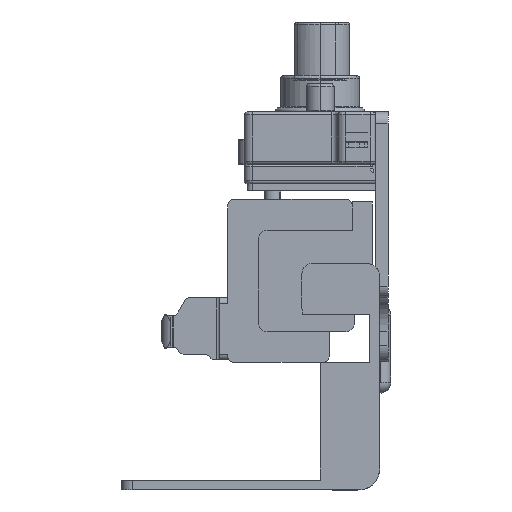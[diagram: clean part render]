
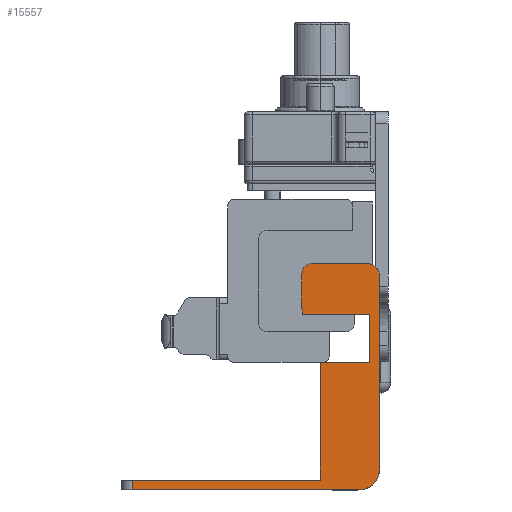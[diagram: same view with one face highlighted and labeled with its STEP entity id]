
A CAD part, left-side view. The second image highlights one B-rep face of the part: STEP entity #15557.
In plain terms, the highlighted planar face has unit normal (-1, 0, 0).
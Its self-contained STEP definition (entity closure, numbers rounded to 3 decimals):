
#154 = CARTESIAN_POINT ( 'NONE',  ( -180., 1.77, 63. ) ) ;
#296 = DIRECTION ( 'NONE',  ( -1., 0., 0. ) ) ;
#380 = DIRECTION ( 'NONE',  ( 1., 0., 0. ) ) ;
#957 = CARTESIAN_POINT ( 'NONE',  ( -180., 0., 44.07 ) ) ;
#1098 = CARTESIAN_POINT ( 'NONE',  ( -180., 12.313, 78.923 ) ) ;
#1138 = EDGE_CURVE ( 'NONE', #15759, #11722, #6414, .T. ) ;
#1156 = LINE ( 'NONE', #16083, #8948 ) ;
#1170 = DIRECTION ( 'NONE',  ( -1., 0., 0. ) ) ;
#1274 = VERTEX_POINT ( 'NONE', #18751 ) ;
#1307 = DIRECTION ( 'NONE',  ( 0., 0., 1. ) ) ;
#1391 = VECTOR ( 'NONE', #13691, 1000. ) ;
#1913 = LINE ( 'NONE', #14173, #5365 ) ;
#2069 = CARTESIAN_POINT ( 'NONE',  ( -180., 3.77, 40.3 ) ) ;
#2289 = CARTESIAN_POINT ( 'NONE',  ( -180., 2.27, 80.6 ) ) ;
#2345 = DIRECTION ( 'NONE',  ( -1., 0., 0. ) ) ;
#2421 = EDGE_CURVE ( 'NONE', #18650, #13160, #7973, .T. ) ;
#2438 = CARTESIAN_POINT ( 'NONE',  ( -180., 11.92, 78.613 ) ) ;
#2572 = CARTESIAN_POINT ( 'NONE',  ( -180., 0., 78.33 ) ) ;
#2594 = DIRECTION ( 'NONE',  ( 0., 0., 1. ) ) ;
#2933 = EDGE_CURVE ( 'NONE', #11722, #1274, #3625, .T. ) ;
#3294 = CARTESIAN_POINT ( 'NONE',  ( -180., 23., 60.45 ) ) ;
#3356 = EDGE_CURVE ( 'NONE', #16747, #8858, #15389, .T. ) ;
#3364 = VERTEX_POINT ( 'NONE', #7607 ) ;
#3625 = CIRCLE ( 'NONE', #3660, 53. ) ;
#3660 = AXIS2_PLACEMENT_3D ( 'NONE', #12883, #4241, #14337 ) ;
#3815 = CARTESIAN_POINT ( 'NONE',  ( -180., 10.57, 63. ) ) ;
#3906 = DIRECTION ( 'NONE',  ( 0., 0., 1. ) ) ;
#3908 = LINE ( 'NONE', #9514, #1391 ) ;
#3988 = VERTEX_POINT ( 'NONE', #154 ) ;
#4241 = DIRECTION ( 'NONE',  ( -1., 0., 0. ) ) ;
#5026 = DIRECTION ( 'NONE',  ( 0., 1., 0. ) ) ;
#5365 = VECTOR ( 'NONE', #2594, 1000. ) ;
#5529 = ORIENTED_EDGE ( 'NONE', *, *, #1138, .T. ) ;
#5594 = DIRECTION ( 'NONE',  ( 0., -1., 0. ) ) ;
#5617 = EDGE_LOOP ( 'NONE', ( #13191, #16588, #7901, #16483, #16827, #6868, #5529, #17824, #14409, #13672, #11902, #14419, #17128, #18642 ) ) ;
#5642 = CARTESIAN_POINT ( 'NONE',  ( -180., 10.57, 42.07 ) ) ;
#6176 = CARTESIAN_POINT ( 'NONE',  ( -180., 1.77, 60.45 ) ) ;
#6390 = CARTESIAN_POINT ( 'NONE',  ( -180., 23., 42.07 ) ) ;
#6414 = CIRCLE ( 'NONE', #7121, 1.5 ) ;
#6802 = LINE ( 'NONE', #6390, #14020 ) ;
#6868 = ORIENTED_EDGE ( 'NONE', *, *, #9453, .T. ) ;
#6992 = EDGE_CURVE ( 'NONE', #11936, #3988, #15925, .T. ) ;
#7121 = AXIS2_PLACEMENT_3D ( 'NONE', #1098, #1170, #1307 ) ;
#7356 = CARTESIAN_POINT ( 'NONE',  ( -180., 44., 42.07 ) ) ;
#7607 = CARTESIAN_POINT ( 'NONE',  ( -180., 44., 40.3 ) ) ;
#7622 = VERTEX_POINT ( 'NONE', #7356 ) ;
#7762 = CARTESIAN_POINT ( 'NONE',  ( -180., 23., 80.6 ) ) ;
#7861 = LINE ( 'NONE', #13044, #14627 ) ;
#7873 = DIRECTION ( 'NONE',  ( 0., 1., 0. ) ) ;
#7901 = ORIENTED_EDGE ( 'NONE', *, *, #15283, .T. ) ;
#7973 = LINE ( 'NONE', #11167, #11346 ) ;
#8201 = EDGE_CURVE ( 'NONE', #18650, #3988, #18818, .T. ) ;
#8414 = CIRCLE ( 'NONE', #17332, 2. ) ;
#8515 = LINE ( 'NONE', #7762, #16167 ) ;
#8858 = VERTEX_POINT ( 'NONE', #957 ) ;
#8948 = VECTOR ( 'NONE', #5594, 1000. ) ;
#9014 = CARTESIAN_POINT ( 'NONE',  ( -180., 1.77, 71.6 ) ) ;
#9081 = CARTESIAN_POINT ( 'NONE',  ( -180., 3.77, 44.07 ) ) ;
#9154 = PLANE ( 'NONE',  #16074 ) ;
#9294 = EDGE_CURVE ( 'NONE', #13160, #7622, #6802, .T. ) ;
#9423 = VERTEX_POINT ( 'NONE', #2289 ) ;
#9453 = EDGE_CURVE ( 'NONE', #15218, #15759, #8414, .T. ) ;
#9514 = CARTESIAN_POINT ( 'NONE',  ( -180., 44., 42.07 ) ) ;
#9731 = DIRECTION ( 'NONE',  ( 0., 0., -1. ) ) ;
#9886 = CARTESIAN_POINT ( 'NONE',  ( -180., 13.809, 79.02 ) ) ;
#10307 = DIRECTION ( 'NONE',  ( 0., -1., 0. ) ) ;
#10499 = DIRECTION ( 'NONE',  ( 0., 0., 1. ) ) ;
#10587 = DIRECTION ( 'NONE',  ( 0., 0., 1. ) ) ;
#10588 = CIRCLE ( 'NONE', #17259, 2.27 ) ;
#10672 = VECTOR ( 'NONE', #10307, 1000. ) ;
#11053 = CARTESIAN_POINT ( 'NONE',  ( -180., 2.27, 78.33 ) ) ;
#11104 = CARTESIAN_POINT ( 'NONE',  ( -180., 12.15, 80.6 ) ) ;
#11167 = CARTESIAN_POINT ( 'NONE',  ( -180., 10.57, 44.07 ) ) ;
#11346 = VECTOR ( 'NONE', #9731, 1000. ) ;
#11722 = VERTEX_POINT ( 'NONE', #9886 ) ;
#11902 = ORIENTED_EDGE ( 'NONE', *, *, #8201, .F. ) ;
#11936 = VERTEX_POINT ( 'NONE', #9014 ) ;
#12064 = VECTOR ( 'NONE', #16299, 1000. ) ;
#12480 = DIRECTION ( 'NONE',  ( 0., 0., 1. ) ) ;
#12570 = DIRECTION ( 'NONE',  ( -1., 0., 0. ) ) ;
#12709 = EDGE_CURVE ( 'NONE', #3364, #16747, #1156, .T. ) ;
#12801 = FACE_OUTER_BOUND ( 'NONE', #5617, .T. ) ;
#12883 = CARTESIAN_POINT ( 'NONE',  ( -180., -39.08, 75.591 ) ) ;
#12982 = EDGE_CURVE ( 'NONE', #3364, #7622, #3908, .T. ) ;
#13044 = CARTESIAN_POINT ( 'NONE',  ( -180., 23., 71.6 ) ) ;
#13160 = VERTEX_POINT ( 'NONE', #5642 ) ;
#13191 = ORIENTED_EDGE ( 'NONE', *, *, #12709, .T. ) ;
#13672 = ORIENTED_EDGE ( 'NONE', *, *, #6992, .T. ) ;
#13691 = DIRECTION ( 'NONE',  ( 0., 0., 1. ) ) ;
#14020 = VECTOR ( 'NONE', #7873, 1000. ) ;
#14173 = CARTESIAN_POINT ( 'NONE',  ( -180., 0., 60.45 ) ) ;
#14337 = DIRECTION ( 'NONE',  ( 0., 0., 1. ) ) ;
#14409 = ORIENTED_EDGE ( 'NONE', *, *, #15408, .F. ) ;
#14419 = ORIENTED_EDGE ( 'NONE', *, *, #2421, .T. ) ;
#14579 = CARTESIAN_POINT ( 'NONE',  ( -180., 10.57, 63. ) ) ;
#14627 = VECTOR ( 'NONE', #17373, 1000. ) ;
#15218 = VERTEX_POINT ( 'NONE', #11104 ) ;
#15283 = EDGE_CURVE ( 'NONE', #8858, #15798, #1913, .T. ) ;
#15389 = CIRCLE ( 'NONE', #16890, 3.77 ) ;
#15408 = EDGE_CURVE ( 'NONE', #11936, #1274, #7861, .T. ) ;
#15557 = ADVANCED_FACE ( 'NONE', ( #12801 ), #9154, .F. ) ;
#15759 = VERTEX_POINT ( 'NONE', #18475 ) ;
#15798 = VERTEX_POINT ( 'NONE', #2572 ) ;
#15925 = LINE ( 'NONE', #6176, #12064 ) ;
#16074 = AXIS2_PLACEMENT_3D ( 'NONE', #3294, #380, #10587 ) ;
#16083 = CARTESIAN_POINT ( 'NONE',  ( -180., 23., 40.3 ) ) ;
#16167 = VECTOR ( 'NONE', #5026, 1000. ) ;
#16299 = DIRECTION ( 'NONE',  ( 0., 0., -1. ) ) ;
#16483 = ORIENTED_EDGE ( 'NONE', *, *, #18200, .T. ) ;
#16588 = ORIENTED_EDGE ( 'NONE', *, *, #3356, .T. ) ;
#16694 = EDGE_CURVE ( 'NONE', #9423, #15218, #8515, .T. ) ;
#16747 = VERTEX_POINT ( 'NONE', #2069 ) ;
#16827 = ORIENTED_EDGE ( 'NONE', *, *, #16694, .T. ) ;
#16890 = AXIS2_PLACEMENT_3D ( 'NONE', #9081, #296, #10499 ) ;
#17128 = ORIENTED_EDGE ( 'NONE', *, *, #9294, .T. ) ;
#17259 = AXIS2_PLACEMENT_3D ( 'NONE', #11053, #2345, #12480 ) ;
#17332 = AXIS2_PLACEMENT_3D ( 'NONE', #2438, #12570, #3906 ) ;
#17373 = DIRECTION ( 'NONE',  ( 0., 1., 0. ) ) ;
#17824 = ORIENTED_EDGE ( 'NONE', *, *, #2933, .T. ) ;
#18200 = EDGE_CURVE ( 'NONE', #15798, #9423, #10588, .T. ) ;
#18475 = CARTESIAN_POINT ( 'NONE',  ( -180., 13.49, 79.852 ) ) ;
#18642 = ORIENTED_EDGE ( 'NONE', *, *, #12982, .F. ) ;
#18650 = VERTEX_POINT ( 'NONE', #3815 ) ;
#18751 = CARTESIAN_POINT ( 'NONE',  ( -180., 13.77, 71.6 ) ) ;
#18818 = LINE ( 'NONE', #14579, #10672 ) ;
